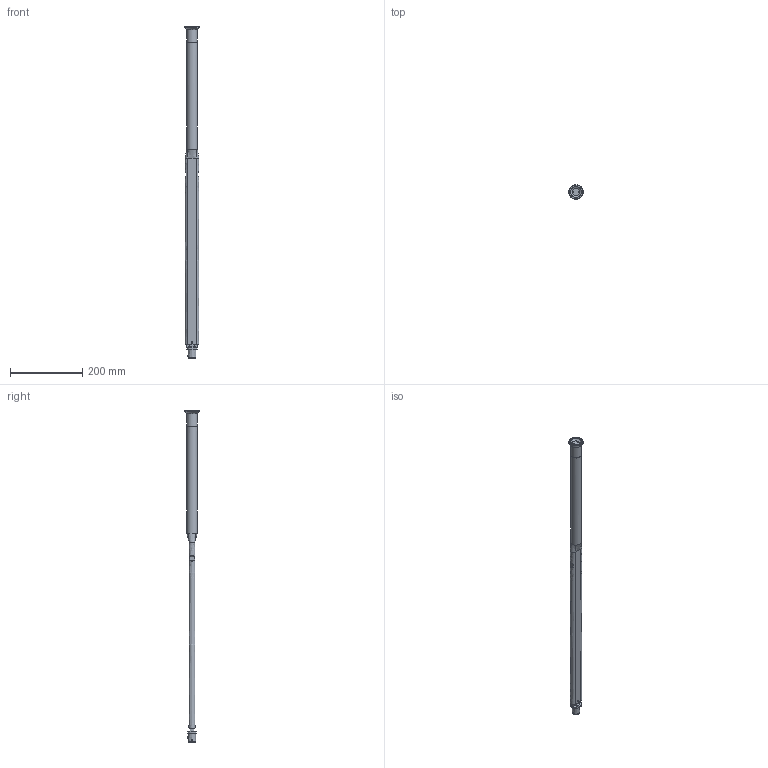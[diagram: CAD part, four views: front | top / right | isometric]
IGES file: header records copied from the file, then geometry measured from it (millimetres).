
Global section: file name: BCSP400NX22D; native system: Autodesk Inventor 2022; preprocessor: unknown; author: Q618; date: 20211124.093315; units: millimetre
Bounding box: 39.97 x 40 x 918 mm (x, y, z)
Volume: 563029.5 mm3; surface area: 89789 mm2
Topology: 1 solids, 1 shells, 68 faces, 179 edges, 126 vertices
Faces by surface type: bspline 68
